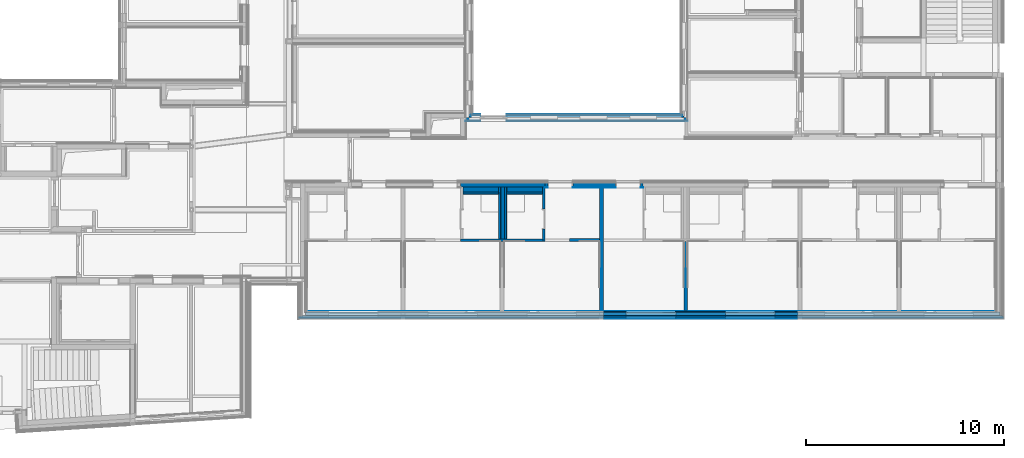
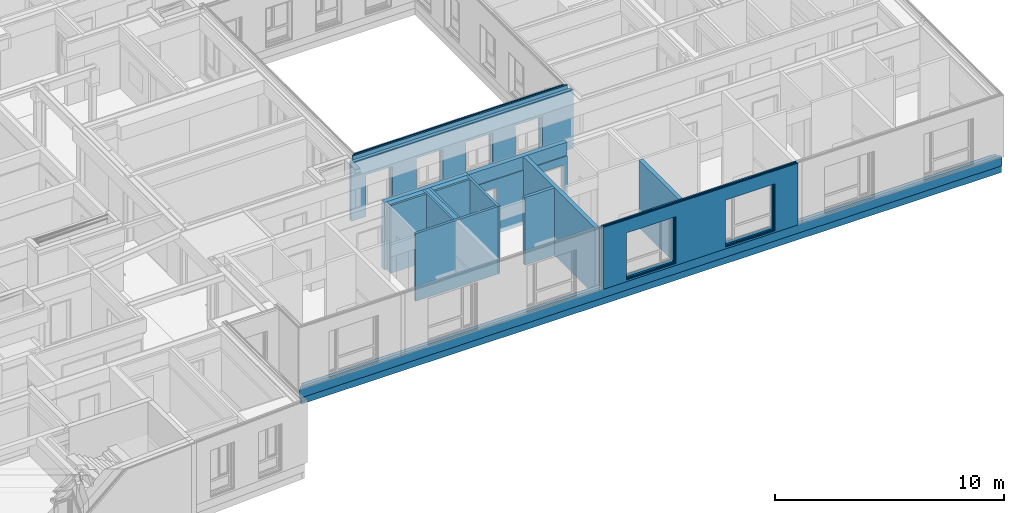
# One storey, part 46 of 207: 32 walls, 43 openings.
"""IFC4 building model written with IfcOpenShell, lengths in metres."""

from ifc_helpers import new_model, entity, si_unit, converted_unit, derived_unit, frame, frame_2d, origin, origin_with_axes, place, context, subcontext, project, spatial, polyline, rectangle, outline, extrude, material, element, save


model = new_model("IFC4")

# Units and contexts
model_context = context("Model", 3, precision=1e-05, world=origin())
body_context = subcontext(model_context, "Body", "Model", "MODEL_VIEW")
ifc_project = project(units=[si_unit("LENGTHUNIT", "METRE"), si_unit("AREAUNIT", "SQUARE_METRE"), si_unit("VOLUMEUNIT", "CUBIC_METRE"), si_unit("MASSUNIT", "GRAM", prefix="KILO"), converted_unit("PLANEANGLEUNIT", "DEGREE", entity("IfcPlaneAngleMeasure", 0.0174532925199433), si_unit("PLANEANGLEUNIT", "RADIAN"), dimensions=[0, 0, 0, 0, 0, 0, 0]), derived_unit("THERMALTRANSMITTANCEUNIT", [(si_unit("POWERUNIT", "WATT"), 1), (si_unit("THERMODYNAMICTEMPERATUREUNIT", "KELVIN"), -1), (si_unit("LENGTHUNIT", "METRE"), -2)]), derived_unit("VOLUMETRICFLOWRATEUNIT", [(si_unit("LENGTHUNIT", "METRE"), 3), (converted_unit("TIMEUNIT", "hour", entity("IfcTimeMeasure", 3600.0), si_unit("TIMEUNIT", "SECOND"), dimensions=[0, 0, 1, 0, 0, 0, 0]), -1), (si_unit("LENGTHUNIT", "METRE"), -1)])], contexts=[model_context])

# Site, building, storey
site_placement = place(None, origin())
site = spatial("IfcSite", under=ifc_project, at=site_placement, Name="Psychiatrie Neubau Wunstorf", CompositionType="ELEMENT")
building_placement = place(site_placement, origin())
building = spatial("IfcBuilding", under=site, at=building_placement, Name="Neubau H2 Stationsgebäude", CompositionType="ELEMENT")
storey_placement = place(building_placement, frame((0.0, 0.0, -0.2)))
storey = spatial("IfcBuildingStorey", under=building, at=storey_placement, Name="H2 Ebene 0", CompositionType="ELEMENT", Elevation=-0.2)

# Wall, openings
ifc_material_1 = material(Name="WA-LB")
wall_1_placement = place(storey_placement, frame((95.9, -1.16399999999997, 0.5), z_axis=(0.0, 0.0, 1.0), x_axis=(-1.0, 7.42444654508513e-16, 0.0)))
wall_1 = element("IfcWall", 1, at=wall_1_placement, inside=storey, material=ifc_material_1, context=body_context, shape_type="SweptSolid", body=[
    extrude(rectangle(XDim=9.8, YDim=0.036, at=frame_2d((4.9, 0.018), x_axis=(1.0, 0.0))), origin_with_axes(), (0.0, 0.0, 1.0), 3.1),
])
opening_1_placement = place(wall_1_placement, frame((1.14999995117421, 0.0, 0.1), z_axis=(0.0, 1.0, 0.0), x_axis=(0.0, 0.0, 1.0)))
element("IfcOpeningElement", 2, at=opening_1_placement, cuts=wall_1, Name="Fensteröffnung", ObjectType="Opening", context=body_context, shape_type="SweptSolid", body=[
    extrude(outline(polyline([(2.5, 2.5), (2.5, 0.0), (0.0, 0.0), (0.0, 2.5), (2.5, 2.5)])), origin_with_axes(), (0.0, 0.0, 1.0), 0.036),
])
opening_2_placement = place(wall_1_placement, frame((6.14999995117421, 0.0, 0.1), z_axis=(0.0, 1.0, 0.0), x_axis=(0.0, 0.0, 1.0)))
element("IfcOpeningElement", 3, at=opening_2_placement, cuts=wall_1, Name="Fensteröffnung", ObjectType="Opening", context=body_context, shape_type="SweptSolid", body=[
    extrude(outline(polyline([(2.5, 2.5), (2.5, 0.0), (0.0, 0.0), (0.0, 2.5), (2.5, 2.5)])), origin_with_axes(), (0.0, 0.0, 1.0), 0.036),
])

ifc_material_2 = material(Name="WA-HD")
wall_2_placement = place(storey_placement, frame((95.9, -1.19999999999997, 0.5), z_axis=(0.0, 0.0, 1.0), x_axis=(-1.0, 7.42444654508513e-16, 0.0)))
wall_2 = element("IfcWall", 4, at=wall_2_placement, inside=storey, material=ifc_material_2, context=body_context, shape_type="SweptSolid", body=[
    extrude(rectangle(XDim=9.8, YDim=0.16, at=frame_2d((4.9, 0.08), x_axis=(1.0, 0.0))), origin_with_axes(), (0.0, 0.0, 1.0), 3.1),
])
opening_3_placement = place(wall_2_placement, frame((6.14999995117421, 0.0, 0.1), z_axis=(0.0, 1.0, 0.0), x_axis=(0.0, 0.0, 1.0)))
element("IfcOpeningElement", 5, at=opening_3_placement, cuts=wall_2, Name="Fensteröffnung", ObjectType="Opening", context=body_context, shape_type="SweptSolid", body=[
    extrude(outline(polyline([(2.5, 2.5), (2.5, 0.0), (0.0, 0.0), (0.0, 2.5), (2.5, 2.5)])), origin_with_axes(), (0.0, 0.0, 1.0), 0.16),
])
opening_4_placement = place(wall_2_placement, frame((1.14999995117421, 0.0, 0.1), z_axis=(-1.4210854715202e-15, 1.0, 0.0), x_axis=(0.0, 0.0, 1.0)))
element("IfcOpeningElement", 6, at=opening_4_placement, cuts=wall_2, Name="Fensteröffnung", ObjectType="Opening", context=body_context, shape_type="SweptSolid", body=[
    extrude(outline(polyline([(2.5, 2.5), (2.5, 0.0), (0.0, 0.0), (0.0, 2.5), (2.5, 2.5)])), origin_with_axes(), (0.0, 0.0, 1.0), 0.16),
])

ifc_material_3 = material(Name="WA-DL")
wall_3_placement = place(storey_placement, frame((95.9, -1.35999999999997, 0.5), z_axis=(0.0, 0.0, 1.0), x_axis=(-1.0, 7.42444654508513e-16, 0.0)))
wall_3 = element("IfcWall", 7, at=wall_3_placement, inside=storey, material=ifc_material_3, context=body_context, shape_type="SweptSolid", body=[
    extrude(rectangle(XDim=9.8, YDim=0.08, at=frame_2d((4.9, 0.04), x_axis=(1.0, 0.0))), origin_with_axes(), (0.0, 0.0, 1.0), 3.3),
])
opening_5_placement = place(wall_3_placement, frame((1.14999995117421, 0.0, 0.1), z_axis=(0.0, 1.0, 0.0), x_axis=(0.0, 0.0, 1.0)))
element("IfcOpeningElement", 8, at=opening_5_placement, cuts=wall_3, Name="Fensteröffnung", ObjectType="Opening", context=body_context, shape_type="SweptSolid", body=[
    extrude(outline(polyline([(2.5, 2.5), (2.5, 0.0), (0.0, 0.0), (0.0, 2.5), (2.5, 2.5)])), origin_with_axes(), (0.0, 0.0, 1.0), 0.08),
])
opening_6_placement = place(wall_3_placement, frame((6.14999995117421, 0.0, 0.1), z_axis=(0.0, 1.0, 0.0), x_axis=(0.0, 0.0, 1.0)))
element("IfcOpeningElement", 9, at=opening_6_placement, cuts=wall_3, Name="Fensteröffnung", ObjectType="Opening", context=body_context, shape_type="SweptSolid", body=[
    extrude(outline(polyline([(2.5, 2.5), (2.5, 0.0), (0.0, 0.0), (0.0, 2.5), (2.5, 2.5)])), origin_with_axes(), (0.0, 0.0, 1.0), 0.08),
])

ifc_material_4 = material(Name="WA-TP")
wall_4_placement = place(storey_placement, frame((95.9, -1.43999999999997, 0.5), z_axis=(0.0, 0.0, 1.0), x_axis=(-1.0, 7.42444654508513e-16, 0.0)))
wall_4 = element("IfcWall", 10, at=wall_4_placement, inside=storey, material=ifc_material_4, context=body_context, shape_type="SweptSolid", body=[
    extrude(rectangle(XDim=9.8, YDim=0.036, at=frame_2d((4.9, 0.018), x_axis=(1.0, 0.0))), origin_with_axes(), (0.0, 0.0, 1.0), 3.3),
])
opening_7_placement = place(wall_4_placement, frame((1.14999995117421, 0.0, 0.1), z_axis=(0.0, 1.0, 0.0), x_axis=(0.0, 0.0, 1.0)))
element("IfcOpeningElement", 11, at=opening_7_placement, cuts=wall_4, Name="Fensteröffnung", ObjectType="Opening", context=body_context, shape_type="SweptSolid", body=[
    extrude(outline(polyline([(2.5, 2.5), (2.5, 0.0), (0.0, 0.0), (0.0, 2.5), (2.5, 2.5)])), origin_with_axes(), (0.0, 0.0, 1.0), 0.036),
])
opening_8_placement = place(wall_4_placement, frame((6.14999995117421, 0.0, 0.1), z_axis=(0.0, 1.0, 0.0), x_axis=(0.0, 0.0, 1.0)))
element("IfcOpeningElement", 12, at=opening_8_placement, cuts=wall_4, Name="Fensteröffnung", ObjectType="Opening", context=body_context, shape_type="SweptSolid", body=[
    extrude(outline(polyline([(2.5, 2.5), (2.5, 0.0), (0.0, 0.0), (0.0, 2.5), (2.5, 2.5)])), origin_with_axes(), (0.0, 0.0, 1.0), 0.036),
])

ifc_material_5 = material(Name="WA-KL")
wall_5_placement = place(storey_placement, frame((95.9, -1.47599999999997, 0.5), z_axis=(0.0, 0.0, 1.0), x_axis=(-1.0, 7.42444654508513e-16, 0.0)))
wall_5 = element("IfcWall", 13, at=wall_5_placement, inside=storey, material=ifc_material_5, context=body_context, shape_type="SweptSolid", body=[
    extrude(rectangle(XDim=9.8, YDim=0.024, at=frame_2d((4.9, 0.012), x_axis=(1.0, 0.0))), origin_with_axes(), (0.0, 0.0, 1.0), 3.3),
])
opening_9_placement = place(wall_5_placement, frame((1.14999995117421, 0.0, 0.1), z_axis=(0.0, 1.0, 0.0), x_axis=(0.0, 0.0, 1.0)))
element("IfcOpeningElement", 14, at=opening_9_placement, cuts=wall_5, Name="Fensteröffnung", ObjectType="Opening", context=body_context, shape_type="SweptSolid", body=[
    extrude(outline(polyline([(2.5, 2.5), (2.5, 0.0), (0.0, 0.0), (0.0, 2.5), (2.5, 2.5)])), origin_with_axes(), (0.0, 0.0, 1.0), 0.024),
])
opening_10_placement = place(wall_5_placement, frame((6.14999995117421, 0.0, 0.1), z_axis=(0.0, 1.0, 0.0), x_axis=(0.0, 0.0, 1.0)))
element("IfcOpeningElement", 15, at=opening_10_placement, cuts=wall_5, Name="Fensteröffnung", ObjectType="Opening", context=body_context, shape_type="SweptSolid", body=[
    extrude(outline(polyline([(2.5, 2.5), (2.5, 0.0), (0.0, 0.0), (0.0, 2.5), (2.5, 2.5)])), origin_with_axes(), (0.0, 0.0, 1.0), 0.024),
])

ifc_material_6 = material(Name="WA-TL")
wall_6_placement = place(storey_placement, frame((95.9, -1.49999999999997, 0.5), z_axis=(0.0, 0.0, 1.0), x_axis=(-1.0, 7.42444654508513e-16, 0.0)))
wall_6 = element("IfcWall", 16, at=wall_6_placement, inside=storey, material=ifc_material_6, context=body_context, shape_type="SweptSolid", body=[
    extrude(rectangle(XDim=9.8, YDim=0.024, at=frame_2d((4.9, 0.012), x_axis=(1.0, 0.0))), origin_with_axes(), (0.0, 0.0, 1.0), 3.3),
])
opening_11_placement = place(wall_6_placement, frame((1.14999995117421, 0.0, 0.1), z_axis=(0.0, 1.0, 0.0), x_axis=(0.0, 0.0, 1.0)))
element("IfcOpeningElement", 17, at=opening_11_placement, cuts=wall_6, Name="Fensteröffnung", ObjectType="Opening", context=body_context, shape_type="SweptSolid", body=[
    extrude(outline(polyline([(2.5, 2.5), (2.5, 0.0), (0.0, 0.0), (0.0, 2.5), (2.5, 2.5)])), origin_with_axes(), (0.0, 0.0, 1.0), 0.024),
])
opening_12_placement = place(wall_6_placement, frame((6.14999995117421, 0.0, 0.1), z_axis=(0.0, 1.0, 0.0), x_axis=(0.0, 0.0, 1.0)))
element("IfcOpeningElement", 18, at=opening_12_placement, cuts=wall_6, Name="Fensteröffnung", ObjectType="Opening", context=body_context, shape_type="SweptSolid", body=[
    extrude(outline(polyline([(2.5, 2.5), (2.5, 0.0), (0.0, 0.0), (0.0, 2.5), (2.5, 2.5)])), origin_with_axes(), (0.0, 0.0, 1.0), 0.024),
])

ifc_material_7 = material(Name="WA-HS")
wall_7_placement = place(storey_placement, frame((95.9, -1.52399999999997, 0.5), z_axis=(0.0, 0.0, 1.0), x_axis=(-1.0, 7.42444654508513e-16, 0.0)))
wall_7 = element("IfcWall", 19, at=wall_7_placement, inside=storey, material=ifc_material_7, context=body_context, shape_type="SweptSolid", body=[
    extrude(rectangle(XDim=9.8, YDim=0.042, at=frame_2d((4.9, 0.021), x_axis=(1.0, 0.0))), origin_with_axes(), (0.0, 0.0, 1.0), 3.3),
])
opening_13_placement = place(wall_7_placement, frame((6.14999995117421, 0.0, 0.1), z_axis=(0.0, 1.0, 0.0), x_axis=(0.0, 0.0, 1.0)))
element("IfcOpeningElement", 20, at=opening_13_placement, cuts=wall_7, Name="Fensteröffnung", ObjectType="Opening", context=body_context, shape_type="SweptSolid", body=[
    extrude(outline(polyline([(2.5, 2.5), (2.5, 0.0), (0.0, 0.0), (0.0, 2.5), (2.5, 2.5)])), origin_with_axes(), (0.0, 0.0, 1.0), 0.042),
])
opening_14_placement = place(wall_7_placement, frame((1.14999995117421, 0.0, 0.1), z_axis=(0.0, 1.0, 0.0), x_axis=(0.0, 0.0, 1.0)))
element("IfcOpeningElement", 21, at=opening_14_placement, cuts=wall_7, Name="Fensteröffnung", ObjectType="Opening", context=body_context, shape_type="SweptSolid", body=[
    extrude(outline(polyline([(2.5, 2.5), (2.5, 0.0), (0.0, 0.0), (0.0, 2.5), (2.5, 2.5)])), origin_with_axes(), (0.0, 0.0, 1.0), 0.042),
])

ifc_material_8 = material(Name="WA-LB")
wall_8_placement = place(storey_placement, frame((79.139, 8.41400000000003, 0.5), z_axis=(0.0, 0.0, 1.0), x_axis=(1.0, -1.62091374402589e-16, 0.0)))
wall_8 = element("IfcWall", 22, at=wall_8_placement, inside=storey, material=ifc_material_8, context=body_context, shape_type="SweptSolid", body=[
    extrude(rectangle(XDim=11.222, YDim=0.036, at=frame_2d((5.611, 0.018), x_axis=(1.0, 0.0))), origin_with_axes(), (0.0, 0.0, 1.0), 3.1),
])
opening_15_placement = place(wall_8_placement, frame((9.6407, 0.0359999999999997, 0.1), z_axis=(0.0, -1.0, 0.0), x_axis=(0.0, 0.0, 1.0)))
element("IfcOpeningElement", 23, at=opening_15_placement, cuts=wall_8, Name="Fensteröffnung", ObjectType="Opening", context=body_context, shape_type="SweptSolid", body=[
    extrude(outline(polyline([(2.12, 1.35), (2.12, 0.0), (0.0, 0.0), (0.0, 1.35), (2.12, 1.35)])), origin_with_axes(), (0.0, 0.0, 1.0), 0.036),
])
opening_16_placement = place(wall_8_placement, frame((7.1407, 0.0359999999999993, 0.1), z_axis=(0.0, -1.0, 0.0), x_axis=(0.0, 0.0, 1.0)))
element("IfcOpeningElement", 24, at=opening_16_placement, cuts=wall_8, Name="Fensteröffnung", ObjectType="Opening", context=body_context, shape_type="SweptSolid", body=[
    extrude(outline(polyline([(2.12, 1.35), (2.12, 0.0), (0.0, 0.0), (0.0, 1.35), (2.12, 1.35)])), origin_with_axes(), (0.0, 0.0, 1.0), 0.036),
])
opening_17_placement = place(wall_8_placement, frame((4.6407, 0.0360000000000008, 0.1), z_axis=(0.0, -1.0, 0.0), x_axis=(0.0, 0.0, 1.0)))
element("IfcOpeningElement", 25, at=opening_17_placement, cuts=wall_8, Name="Fensteröffnung", ObjectType="Opening", context=body_context, shape_type="SweptSolid", body=[
    extrude(outline(polyline([(2.12, 1.35), (2.12, 0.0), (0.0, 0.0), (0.0, 1.35), (2.12, 1.35)])), origin_with_axes(), (0.0, 0.0, 1.0), 0.036),
])
opening_18_placement = place(wall_8_placement, frame((2.09200000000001, 0.0360000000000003, -0.5), z_axis=(0.0, -1.0, 0.0), x_axis=(0.0, 0.0, 1.0)))
element("IfcOpeningElement", 26, at=opening_18_placement, cuts=wall_8, Name="Türöffnung", ObjectType="Opening", context=body_context, shape_type="SweptSolid", body=[
    extrude(outline(polyline([(2.72, 1.35), (2.72, 0.0), (0.0, 0.0), (0.0, 1.35), (2.72, 1.35)])), origin_with_axes(), (0.0, 0.0, 1.0), 0.036),
])

ifc_material_9 = material(Name="WA-HD")
wall_9_placement = place(storey_placement, frame((79.175, 8.45000000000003, 0.5), z_axis=(0.0, 0.0, 1.0), x_axis=(1.0, -1.63138063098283e-16, 0.0)))
wall_9 = element("IfcWall", 27, at=wall_9_placement, inside=storey, material=ifc_material_9, context=body_context, shape_type="SweptSolid", body=[
    extrude(rectangle(XDim=11.15, YDim=0.16, at=frame_2d((5.575, 0.08), x_axis=(1.0, 0.0))), origin_with_axes(), (0.0, 0.0, 1.0), 3.1),
])
opening_19_placement = place(wall_9_placement, frame((9.6047, 0.16, 0.1), z_axis=(0.0, -1.0, 0.0), x_axis=(0.0, 0.0, 1.0)))
element("IfcOpeningElement", 28, at=opening_19_placement, cuts=wall_9, Name="Fensteröffnung", ObjectType="Opening", context=body_context, shape_type="SweptSolid", body=[
    extrude(outline(polyline([(2.12, 1.35), (2.12, 0.0), (0.0, 0.0), (0.0, 1.35), (2.12, 1.35)])), origin_with_axes(), (0.0, 0.0, 1.0), 0.16),
])
opening_20_placement = place(wall_9_placement, frame((7.1047, 0.159999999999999, 0.1), z_axis=(0.0, -1.0, 0.0), x_axis=(0.0, 0.0, 1.0)))
element("IfcOpeningElement", 29, at=opening_20_placement, cuts=wall_9, Name="Fensteröffnung", ObjectType="Opening", context=body_context, shape_type="SweptSolid", body=[
    extrude(outline(polyline([(2.12, 1.35), (2.12, 0.0), (0.0, 0.0), (0.0, 1.35), (2.12, 1.35)])), origin_with_axes(), (0.0, 0.0, 1.0), 0.16),
])
opening_21_placement = place(wall_9_placement, frame((4.6047, 0.160000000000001, 0.1), z_axis=(0.0, -1.0, 0.0), x_axis=(0.0, 0.0, 1.0)))
element("IfcOpeningElement", 30, at=opening_21_placement, cuts=wall_9, Name="Fensteröffnung", ObjectType="Opening", context=body_context, shape_type="SweptSolid", body=[
    extrude(outline(polyline([(2.12, 1.35), (2.12, 0.0), (0.0, 0.0), (0.0, 1.35), (2.12, 1.35)])), origin_with_axes(), (0.0, 0.0, 1.0), 0.16),
])
opening_22_placement = place(wall_9_placement, frame((2.05600000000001, 0.16, -0.5), z_axis=(0.0, -1.0, 0.0), x_axis=(0.0, 0.0, 1.0)))
element("IfcOpeningElement", 31, at=opening_22_placement, cuts=wall_9, Name="Türöffnung", ObjectType="Opening", context=body_context, shape_type="SweptSolid", body=[
    extrude(outline(polyline([(2.72, 1.35), (2.72, 0.0), (0.0, 0.0), (0.0, 1.35), (2.72, 1.35)])), origin_with_axes(), (0.0, 0.0, 1.0), 0.16),
])

ifc_material_10 = material(Name="WA-DL")
wall_10_placement = place(storey_placement, frame((79.335, 8.61000000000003, 0.5), z_axis=(0.0, 0.0, 1.0), x_axis=(1.0, -1.67958393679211e-16, 0.0)))
wall_10 = element("IfcWall", 32, at=wall_10_placement, inside=storey, material=ifc_material_10, context=body_context, shape_type="SweptSolid", body=[
    extrude(rectangle(XDim=10.83, YDim=0.08, at=frame_2d((5.415, 0.04), x_axis=(1.0, 0.0))), origin_with_axes(), (0.0, 0.0, 1.0), 3.3),
])
opening_23_placement = place(wall_10_placement, frame((9.4447, 0.0799999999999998, 0.1), z_axis=(0.0, -1.0, 0.0), x_axis=(0.0, 0.0, 1.0)))
element("IfcOpeningElement", 33, at=opening_23_placement, cuts=wall_10, Name="Fensteröffnung", ObjectType="Opening", context=body_context, shape_type="SweptSolid", body=[
    extrude(outline(polyline([(2.12, 1.35), (2.12, 0.0), (0.0, 0.0), (0.0, 1.35), (2.12, 1.35)])), origin_with_axes(), (0.0, 0.0, 1.0), 0.08),
])
opening_24_placement = place(wall_10_placement, frame((6.9447, 0.0799999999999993, 0.1), z_axis=(0.0, -1.0, 0.0), x_axis=(0.0, 0.0, 1.0)))
element("IfcOpeningElement", 34, at=opening_24_placement, cuts=wall_10, Name="Fensteröffnung", ObjectType="Opening", context=body_context, shape_type="SweptSolid", body=[
    extrude(outline(polyline([(2.12, 1.35), (2.12, 0.0), (0.0, 0.0), (0.0, 1.35), (2.12, 1.35)])), origin_with_axes(), (0.0, 0.0, 1.0), 0.08),
])
opening_25_placement = place(wall_10_placement, frame((4.4447, 0.0800000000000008, 0.1), z_axis=(0.0, -1.0, 0.0), x_axis=(0.0, 0.0, 1.0)))
element("IfcOpeningElement", 35, at=opening_25_placement, cuts=wall_10, Name="Fensteröffnung", ObjectType="Opening", context=body_context, shape_type="SweptSolid", body=[
    extrude(outline(polyline([(2.12, 1.35), (2.12, 0.0), (0.0, 0.0), (0.0, 1.35), (2.12, 1.35)])), origin_with_axes(), (0.0, 0.0, 1.0), 0.08),
])
opening_26_placement = place(wall_10_placement, frame((1.89600000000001, 0.0800000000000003, -0.5), z_axis=(0.0, -1.0, 0.0), x_axis=(0.0, 0.0, 1.0)))
element("IfcOpeningElement", 36, at=opening_26_placement, cuts=wall_10, Name="Türöffnung", ObjectType="Opening", context=body_context, shape_type="SweptSolid", body=[
    extrude(outline(polyline([(2.72, 1.35), (2.72, 0.0), (0.0, 0.0), (0.0, 1.35), (2.72, 1.35)])), origin_with_axes(), (0.0, 0.0, 1.0), 0.08),
])

ifc_material_11 = material(Name="WA-LB")
wall_11_placement = place(storey_placement, frame((79.415, 8.69000000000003, 0.5), z_axis=(0.0, 0.0, 1.0), x_axis=(1.0, -1.70476982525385e-16, 0.0)))
wall_11 = element("IfcWall", 37, at=wall_11_placement, inside=storey, material=ifc_material_11, context=body_context, shape_type="SweptSolid", body=[
    extrude(rectangle(XDim=10.67, YDim=0.036, at=frame_2d((5.335, 0.018), x_axis=(1.0, 0.0))), origin_with_axes(), (0.0, 0.0, 1.0), 3.3),
])
opening_27_placement = place(wall_11_placement, frame((9.3647, 0.0359999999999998, 0.1), z_axis=(0.0, -1.0, 0.0), x_axis=(0.0, 0.0, 1.0)))
element("IfcOpeningElement", 38, at=opening_27_placement, cuts=wall_11, Name="Fensteröffnung", ObjectType="Opening", context=body_context, shape_type="SweptSolid", body=[
    extrude(outline(polyline([(2.12, 1.35), (2.12, 0.0), (0.0, 0.0), (0.0, 1.35), (2.12, 1.35)])), origin_with_axes(), (0.0, 0.0, 1.0), 0.036),
])
opening_28_placement = place(wall_11_placement, frame((6.8647, 0.0359999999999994, 0.1), z_axis=(0.0, -1.0, 0.0), x_axis=(0.0, 0.0, 1.0)))
element("IfcOpeningElement", 39, at=opening_28_placement, cuts=wall_11, Name="Fensteröffnung", ObjectType="Opening", context=body_context, shape_type="SweptSolid", body=[
    extrude(outline(polyline([(2.12, 1.35), (2.12, 0.0), (0.0, 0.0), (0.0, 1.35), (2.12, 1.35)])), origin_with_axes(), (0.0, 0.0, 1.0), 0.036),
])
opening_29_placement = place(wall_11_placement, frame((4.3647, 0.0360000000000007, 0.1), z_axis=(0.0, -1.0, 0.0), x_axis=(0.0, 0.0, 1.0)))
element("IfcOpeningElement", 40, at=opening_29_placement, cuts=wall_11, Name="Fensteröffnung", ObjectType="Opening", context=body_context, shape_type="SweptSolid", body=[
    extrude(outline(polyline([(2.12, 1.35), (2.12, 0.0), (0.0, 0.0), (0.0, 1.35), (2.12, 1.35)])), origin_with_axes(), (0.0, 0.0, 1.0), 0.036),
])
opening_30_placement = place(wall_11_placement, frame((1.81600000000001, 0.0360000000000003, -0.5), z_axis=(0.0, -1.0, 0.0), x_axis=(0.0, 0.0, 1.0)))
element("IfcOpeningElement", 41, at=opening_30_placement, cuts=wall_11, Name="Türöffnung", ObjectType="Opening", context=body_context, shape_type="SweptSolid", body=[
    extrude(outline(polyline([(2.72, 1.35), (2.72, 0.0), (0.0, 0.0), (0.0, 1.35), (2.72, 1.35)])), origin_with_axes(), (0.0, 0.0, 1.0), 0.036),
])

ifc_material_12 = material(Name="WA-KL")
wall_12_placement = place(storey_placement, frame((79.451, 8.72600000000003, 0.5), z_axis=(0.0, 0.0, 1.0), x_axis=(1.0, -1.71635157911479e-16, 0.0)))
wall_12 = element("IfcWall", 42, at=wall_12_placement, inside=storey, material=ifc_material_12, context=body_context, shape_type="SweptSolid", body=[
    extrude(rectangle(XDim=10.598, YDim=0.024, at=frame_2d((5.299, 0.012), x_axis=(1.0, 0.0))), origin_with_axes(), (0.0, 0.0, 1.0), 3.3),
])
opening_31_placement = place(wall_12_placement, frame((9.3287, 0.0239999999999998, 0.1), z_axis=(0.0, -1.0, 0.0), x_axis=(0.0, 0.0, 1.0)))
element("IfcOpeningElement", 43, at=opening_31_placement, cuts=wall_12, Name="Fensteröffnung", ObjectType="Opening", context=body_context, shape_type="SweptSolid", body=[
    extrude(outline(polyline([(2.12, 1.35), (2.12, 0.0), (0.0, 0.0), (0.0, 1.35), (2.12, 1.35)])), origin_with_axes(), (0.0, 0.0, 1.0), 0.024),
])
opening_32_placement = place(wall_12_placement, frame((6.8287, 0.0239999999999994, 0.1), z_axis=(0.0, -1.0, 0.0), x_axis=(0.0, 0.0, 1.0)))
element("IfcOpeningElement", 44, at=opening_32_placement, cuts=wall_12, Name="Fensteröffnung", ObjectType="Opening", context=body_context, shape_type="SweptSolid", body=[
    extrude(outline(polyline([(2.12, 1.35), (2.12, 0.0), (0.0, 0.0), (0.0, 1.35), (2.12, 1.35)])), origin_with_axes(), (0.0, 0.0, 1.0), 0.024),
])
opening_33_placement = place(wall_12_placement, frame((4.3287, 0.0240000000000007, 0.1), z_axis=(0.0, -1.0, 0.0), x_axis=(0.0, 0.0, 1.0)))
element("IfcOpeningElement", 45, at=opening_33_placement, cuts=wall_12, Name="Fensteröffnung", ObjectType="Opening", context=body_context, shape_type="SweptSolid", body=[
    extrude(outline(polyline([(2.12, 1.35), (2.12, 0.0), (0.0, 0.0), (0.0, 1.35), (2.12, 1.35)])), origin_with_axes(), (0.0, 0.0, 1.0), 0.024),
])
opening_34_placement = place(wall_12_placement, frame((1.78000000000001, 0.0240000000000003, -0.5), z_axis=(0.0, -1.0, 0.0), x_axis=(0.0, 0.0, 1.0)))
element("IfcOpeningElement", 46, at=opening_34_placement, cuts=wall_12, Name="Türöffnung", ObjectType="Opening", context=body_context, shape_type="SweptSolid", body=[
    extrude(outline(polyline([(2.72, 1.35), (2.72, 0.0), (0.0, 0.0), (0.0, 1.35), (2.72, 1.35)])), origin_with_axes(), (0.0, 0.0, 1.0), 0.024),
])

ifc_material_13 = material(Name="WA-TL")
wall_13_placement = place(storey_placement, frame((79.475, 8.75000000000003, 0.5), z_axis=(0.0, 0.0, 1.0), x_axis=(1.0, -1.72416057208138e-16, 0.0)))
wall_13 = element("IfcWall", 47, at=wall_13_placement, inside=storey, material=ifc_material_13, context=body_context, shape_type="SweptSolid", body=[
    extrude(rectangle(XDim=10.55, YDim=0.024, at=frame_2d((5.275, 0.012), x_axis=(1.0, 0.0))), origin_with_axes(), (0.0, 0.0, 1.0), 3.3),
])
opening_35_placement = place(wall_13_placement, frame((9.3047, 0.0239999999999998, 0.1), z_axis=(0.0, -1.0, 0.0), x_axis=(0.0, 0.0, 1.0)))
element("IfcOpeningElement", 48, at=opening_35_placement, cuts=wall_13, Name="Fensteröffnung", ObjectType="Opening", context=body_context, shape_type="SweptSolid", body=[
    extrude(outline(polyline([(2.12, 1.35), (2.12, 0.0), (0.0, 0.0), (0.0, 1.35), (2.12, 1.35)])), origin_with_axes(), (0.0, 0.0, 1.0), 0.024),
])
opening_36_placement = place(wall_13_placement, frame((6.8047, 0.0239999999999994, 0.1), z_axis=(0.0, -1.0, 0.0), x_axis=(0.0, 0.0, 1.0)))
element("IfcOpeningElement", 49, at=opening_36_placement, cuts=wall_13, Name="Fensteröffnung", ObjectType="Opening", context=body_context, shape_type="SweptSolid", body=[
    extrude(outline(polyline([(2.12, 1.35), (2.12, 0.0), (0.0, 0.0), (0.0, 1.35), (2.12, 1.35)])), origin_with_axes(), (0.0, 0.0, 1.0), 0.024),
])
opening_37_placement = place(wall_13_placement, frame((4.3047, 0.0240000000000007, 0.1), z_axis=(0.0, -1.0, 0.0), x_axis=(0.0, 0.0, 1.0)))
element("IfcOpeningElement", 50, at=opening_37_placement, cuts=wall_13, Name="Fensteröffnung", ObjectType="Opening", context=body_context, shape_type="SweptSolid", body=[
    extrude(outline(polyline([(2.12, 1.35), (2.12, 0.0), (0.0, 0.0), (0.0, 1.35), (2.12, 1.35)])), origin_with_axes(), (0.0, 0.0, 1.0), 0.024),
])
opening_38_placement = place(wall_13_placement, frame((1.75600000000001, 0.0240000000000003, -0.5), z_axis=(0.0, -1.0, 0.0), x_axis=(0.0, 0.0, 1.0)))
element("IfcOpeningElement", 51, at=opening_38_placement, cuts=wall_13, Name="Türöffnung", ObjectType="Opening", context=body_context, shape_type="SweptSolid", body=[
    extrude(outline(polyline([(2.72, 1.35), (2.72, 0.0), (0.0, 0.0), (0.0, 1.35), (2.72, 1.35)])), origin_with_axes(), (0.0, 0.0, 1.0), 0.024),
])

# Walls
ifc_material_14 = material(Name="WA-LB")
wall_14_placement = place(storey_placement, frame((105.91, -1.16399999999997, 0.0), z_axis=(0.0, 0.0, 1.0), x_axis=(-1.0, 0.0, 0.0)))
element("IfcWall", 52, at=wall_14_placement, inside=storey, material=ifc_material_14, context=body_context, shape_type="SweptSolid", body=[
    extrude(rectangle(XDim=34.799, YDim=0.021, at=frame_2d((17.3995, 0.0105), x_axis=(1.0, 0.0))), origin_with_axes(), (0.0, 0.0, 1.0), 0.5),
])
ifc_material_15 = material(Name="WA-STB")
wall_15_placement = place(storey_placement, frame((106.085, -1.18499999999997, 0.0), z_axis=(0.0, 0.0, 1.0), x_axis=(-1.0, 0.0, 0.0)))
element("IfcWall", 53, at=wall_15_placement, inside=storey, material=ifc_material_15, context=body_context, shape_type="SweptSolid", body=[
    extrude(rectangle(XDim=34.995, YDim=0.174999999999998, at=frame_2d((17.4975, 0.0874999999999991), x_axis=(1.0, 0.0))), origin_with_axes(), (0.0, 0.0, 1.0), 0.5),
])
ifc_material_16 = material(Name="WA-DE")
wall_16_placement = place(storey_placement, frame((106.205, -1.35999999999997, -0.36), z_axis=(0.0, 0.0, 1.0), x_axis=(-1.0, 0.0, 0.0)))
element("IfcWall", 54, at=wall_16_placement, inside=storey, material=ifc_material_16, context=body_context, shape_type="SweptSolid", body=[
    extrude(rectangle(XDim=35.29, YDim=0.12, at=frame_2d((17.645, 0.06), x_axis=(1.0, 0.0))), origin_with_axes(), (0.0, 0.0, 1.0), 0.86),
])
ifc_material_17 = material(Name="WA-LB")
wall_17_placement = place(storey_placement, frame((106.22, -1.47999999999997, 0.0), z_axis=(0.0, 0.0, 1.0), x_axis=(-1.0, 0.0, 0.0)))
element("IfcWall", 55, at=wall_17_placement, inside=storey, material=ifc_material_17, context=body_context, shape_type="SweptSolid", body=[
    extrude(rectangle(XDim=35.425, YDim=0.015, at=frame_2d((17.7125, 0.0075), x_axis=(1.0, 0.0))), origin_with_axes(), (0.0, 0.0, 1.0), 0.5),
])
ifc_material_18 = material(Name="WI-LB")
wall_18_placement = place(storey_placement, frame((83.05, 2.4855, 0.0), z_axis=(0.0, 0.0, 1.0), x_axis=(-1.0, 0.0, 0.0)))
element("IfcWall", 56, at=wall_18_placement, inside=storey, material=ifc_material_18, context=body_context, shape_type="SweptSolid", body=[
    extrude(rectangle(XDim=4.15, YDim=0.125, at=frame_2d((2.075, 0.0625), x_axis=(1.0, 0.0))), origin_with_axes(), (0.0, 0.0, 1.0), 3.6),
])

# Wall, opening
ifc_material_19 = material(Name="WI-LB")
wall_19_placement = place(storey_placement, frame((83.025, 5.1005, 0.0), z_axis=(0.0, 0.0, 1.0), x_axis=(0.0, -1.0, 0.0)))
wall_19 = element("IfcWall", 57, at=wall_19_placement, inside=storey, material=ifc_material_19, context=body_context, shape_type="SweptSolid", body=[
    extrude(outline(polyline([(-2.74, 0.0), (-0.125, 0.0), (-0.125, 0.025), (0.0, 0.025), (0.0, 0.125), (-2.74, 0.125), (-2.74, 0.0)])), frame((2.74, 0.0, 0.0), z_axis=(0.0, 0.0, 1.0), x_axis=(1.0, 0.0, 0.0)), (0.0, 0.0, 1.0), 3.6),
])
opening_39_placement = place(wall_19_placement, frame((1.105, 0.0, 0.0), z_axis=(0.0, 1.0, 0.0), x_axis=(0.0, 0.0, 1.0)))
element("IfcOpeningElement", 58, at=opening_39_placement, cuts=wall_19, Name="Türöffnung", ObjectType="Opening", context=body_context, shape_type="SweptSolid", body=[
    extrude(outline(polyline([(2.46, 1.01), (2.46, 0.0), (0.0, 0.0), (0.0, 1.01), (2.46, 1.01)])), origin_with_axes(), (0.0, 0.0, 1.0), 0.125),
])

# Walls
ifc_material_20 = material(Name="WI-LB")
wall_20_placement = place(storey_placement, frame((85.9000000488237, 5.1005, 0.0), z_axis=(0.0, 0.0, 1.0), x_axis=(0.0, -1.0, 0.0)))
element("IfcWall", 59, at=wall_20_placement, inside=storey, material=ifc_material_20, context=body_context, shape_type="SweptSolid", body=[
    extrude(rectangle(XDim=6.2645, YDim=0.2, at=frame_2d((3.13225, 0.1), x_axis=(1.0, 0.0))), origin_with_axes(), (0.0, 0.0, 1.0), 3.6),
])
ifc_material_21 = material(Name="WI-LB")
wall_21_placement = place(storey_placement, frame((90.1500000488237, 2.3605, 0.0), z_axis=(0.0, 0.0, 1.0), x_axis=(0.0, -1.0, 0.0)))
element("IfcWall", 60, at=wall_21_placement, inside=storey, material=ifc_material_21, context=body_context, shape_type="SweptSolid", body=[
    extrude(rectangle(XDim=3.5245, YDim=0.2, at=frame_2d((1.76225, 0.1), x_axis=(1.0, 0.0))), origin_with_axes(), (0.0, 0.0, 1.0), 3.6),
])
ifc_material_22 = material(Name="WI-LB")
wall_22_placement = place(storey_placement, frame((85.9000000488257, 2.51050000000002, 0.0), z_axis=(0.0, 0.0, 1.0), x_axis=(-1.0, 0.0, 0.0)))
element("IfcWall", 61, at=wall_22_placement, inside=storey, material=ifc_material_22, context=body_context, shape_type="SweptSolid", body=[
    extrude(rectangle(XDim=1.5, YDim=0.15, at=frame_2d((0.75, 0.075), x_axis=(1.0, 0.0))), origin_with_axes(), (0.0, 0.0, 1.0), 3.6),
])
ifc_material_23 = material(Name="WI-HW 60")
wall_23_placement = place(storey_placement, frame((83.15, 5.3325, 0.0), z_axis=(0.0, 0.0, 1.0), x_axis=(-1.0, 0.0, 0.0)))
element("IfcWall", 62, at=wall_23_placement, inside=storey, material=ifc_material_23, context=body_context, shape_type="SweptSolid", body=[
    extrude(rectangle(XDim=4.25000000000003, YDim=0.231999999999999, at=frame_2d((2.12500000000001, 0.116), x_axis=(1.0, 0.0))), origin_with_axes(), (0.0, 0.0, 1.0), 3.6),
])

# Wall, openings
ifc_material_24 = material(Name="WI-HW 60")
wall_24_placement = place(storey_placement, frame((88.1000000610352, 5.3325, 0.0), z_axis=(0.0, 0.0, 1.0), x_axis=(-1.0, 0.0, 0.0)))
wall_24 = element("IfcWall", 63, at=wall_24_placement, inside=storey, material=ifc_material_24, context=body_context, shape_type="SweptSolid", body=[
    extrude(rectangle(XDim=4.95000006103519, YDim=0.232, at=frame_2d((2.47500003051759, 0.116), x_axis=(1.0, 0.0))), origin_with_axes(), (0.0, 0.0, 1.0), 3.6),
])
opening_40_placement = place(wall_24_placement, frame((3.54000006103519, 0.0, 0.0), z_axis=(0.0, 1.0, 0.0), x_axis=(0.0, 0.0, 1.0)))
element("IfcOpeningElement", 64, at=opening_40_placement, cuts=wall_24, Name="Türöffnung", ObjectType="Opening", context=body_context, shape_type="SweptSolid", body=[
    extrude(outline(polyline([(2.46, 1.26), (2.46, 0.0), (0.0, 0.0), (0.0, 1.26), (2.46, 1.26)])), origin_with_axes(), (0.0, 0.0, 1.0), 0.232),
])
opening_41_placement = place(wall_24_placement, frame((0.125000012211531, 0.0, 0.0), z_axis=(0.0, 1.0, 0.0), x_axis=(0.0, 0.0, 1.0)))
element("IfcOpeningElement", 65, at=opening_41_placement, cuts=wall_24, Name="Türöffnung", ObjectType="Opening", context=body_context, shape_type="SweptSolid", body=[
    extrude(outline(polyline([(2.46, 1.26), (2.46, 0.0), (0.0, 0.0), (0.0, 1.26), (2.46, 1.26)])), origin_with_axes(), (0.0, 0.0, 1.0), 0.232),
])

ifc_material_25 = material(Name="WI-LB")
wall_25_placement = place(storey_placement, frame((88.1000000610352, 5.1005, 0.0), z_axis=(0.0, 0.0, 1.0), x_axis=(-1.0, 0.0, 0.0)))
wall_25 = element("IfcWall", 66, at=wall_25_placement, inside=storey, material=ifc_material_25, context=body_context, shape_type="SweptSolid", body=[
    extrude(rectangle(XDim=4.95000006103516, YDim=0.04, at=frame_2d((2.47500003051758, 0.02), x_axis=(1.0, 0.0))), origin_with_axes(), (0.0, 0.0, 1.0), 2.9),
])
opening_42_placement = place(wall_25_placement, frame((3.54000006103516, 0.0, 0.0), z_axis=(0.0, 1.0, 0.0), x_axis=(0.0, 0.0, 1.0)))
element("IfcOpeningElement", 67, at=opening_42_placement, cuts=wall_25, Name="Türöffnung", ObjectType="Opening", context=body_context, shape_type="SweptSolid", body=[
    extrude(outline(polyline([(2.46, 1.26), (2.46, 0.0), (0.0, 0.0), (0.0, 1.26), (2.46, 1.26)])), origin_with_axes(), (0.0, 0.0, 1.0), 0.04),
])
opening_43_placement = place(wall_25_placement, frame((0.125000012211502, 0.0, 0.0), z_axis=(0.0, 1.0, 0.0), x_axis=(0.0, 0.0, 1.0)))
element("IfcOpeningElement", 68, at=opening_43_placement, cuts=wall_25, Name="Türöffnung", ObjectType="Opening", context=body_context, shape_type="SweptSolid", body=[
    extrude(outline(polyline([(2.46, 1.26), (2.46, 0.0), (0.0, 0.0), (0.0, 1.26), (2.46, 1.26)])), origin_with_axes(), (0.0, 0.0, 1.0), 0.04),
])

# Walls
ifc_material_26 = material(Name="WI-IW")
wall_26_placement = place(storey_placement, frame((79.025, 4.7505, 0.0)))
element("IfcWall", 69, at=wall_26_placement, inside=storey, material=ifc_material_26, context=body_context, shape_type="SweptSolid", body=[
    extrude(rectangle(XDim=1.8, YDim=0.1, at=frame_2d((0.9, 0.05), x_axis=(1.0, 0.0))), origin_with_axes(), (0.0, 0.0, 1.0), 3.6),
])
ifc_material_27 = material(Name="Installationsraum")
wall_27_placement = place(storey_placement, frame((79.025, 4.8505, 0.0)))
element("IfcWall", 70, at=wall_27_placement, inside=storey, material=ifc_material_27, context=body_context, shape_type="SweptSolid", body=[
    extrude(rectangle(XDim=1.8, YDim=0.25, at=frame_2d((0.9, 0.125), x_axis=(1.0, 0.0))), origin_with_axes(), (0.0, 0.0, 1.0), 3.6),
])
ifc_material_28 = material(Name="WI-IW")
wall_28_placement = place(storey_placement, frame((80.825, 5.1005, 0.0), z_axis=(0.0, 0.0, 1.0), x_axis=(0.0, -1.0, 0.0)))
element("IfcWall", 71, at=wall_28_placement, inside=storey, material=ifc_material_28, context=body_context, shape_type="SweptSolid", body=[
    extrude(rectangle(XDim=2.615, YDim=0.1, at=frame_2d((1.3075, 0.05), x_axis=(1.0, 0.0))), origin_with_axes(), (0.0, 0.0, 1.0), 3.6),
])
ifc_material_29 = material(Name="Installationsraum")
wall_29_placement = place(storey_placement, frame((80.925, 5.1005, 0.0), z_axis=(0.0, 0.0, 1.0), x_axis=(0.0, -1.0, 0.0)))
element("IfcWall", 72, at=wall_29_placement, inside=storey, material=ifc_material_29, context=body_context, shape_type="SweptSolid", body=[
    extrude(rectangle(XDim=2.615, YDim=0.2, at=frame_2d((1.3075, 0.1), x_axis=(1.0, 0.0))), origin_with_axes(), (0.0, 0.0, 1.0), 3.6),
])
ifc_material_30 = material(Name="WI-IW")
wall_30_placement = place(storey_placement, frame((81.125, 5.1005, 0.0), z_axis=(0.0, 0.0, 1.0), x_axis=(0.0, -1.0, 0.0)))
element("IfcWall", 73, at=wall_30_placement, inside=storey, material=ifc_material_30, context=body_context, shape_type="SweptSolid", body=[
    extrude(rectangle(XDim=2.615, YDim=0.1, at=frame_2d((1.3075, 0.05), x_axis=(1.0, 0.0))), origin_with_axes(), (0.0, 0.0, 1.0), 3.6),
])
ifc_material_31 = material(Name="WI-IW")
wall_31_placement = place(storey_placement, frame((81.225, 4.7505, 0.0)))
element("IfcWall", 74, at=wall_31_placement, inside=storey, material=ifc_material_31, context=body_context, shape_type="SweptSolid", body=[
    extrude(rectangle(XDim=1.8, YDim=0.1, at=frame_2d((0.9, 0.05), x_axis=(1.0, 0.0))), origin_with_axes(), (0.0, 0.0, 1.0), 3.6),
])
ifc_material_32 = material(Name="Installationsraum")
wall_32_placement = place(storey_placement, frame((81.225, 4.8505, 0.0)))
element("IfcWall", 75, at=wall_32_placement, inside=storey, material=ifc_material_32, context=body_context, shape_type="SweptSolid", body=[
    extrude(rectangle(XDim=1.8, YDim=0.25, at=frame_2d((0.9, 0.125), x_axis=(1.0, 0.0))), origin_with_axes(), (0.0, 0.0, 1.0), 3.6),
])

save(model, "model.ifc")
